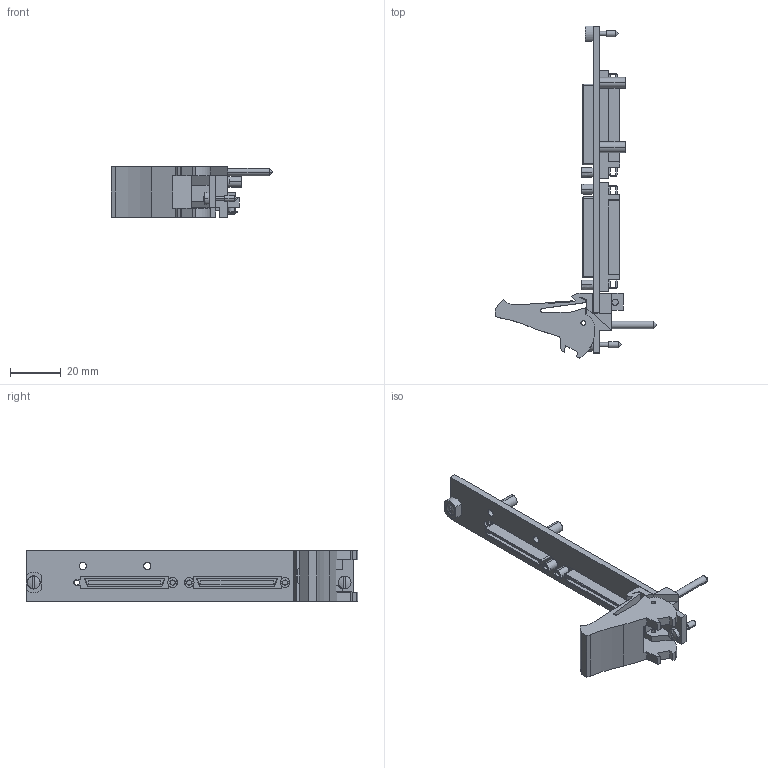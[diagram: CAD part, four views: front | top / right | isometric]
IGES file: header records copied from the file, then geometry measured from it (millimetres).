
Start section:  PTC IGES file: cu-pxi-module-68pos-vhdci.igs
Global section: file name: cu-pxi-module-68pos-vhdci.igs; native system: Pro/ENGINEER by Parametric Technology Corporation; preprocessor: 2006080; author: mschrade; organization: Unknown; date: 090923.100317; units: inch
Bounding box: 63.53 x 130.62 x 20.02 mm (x, y, z)
Surface area: 16052.4 mm2 (no closed solid volume)
Topology: 0 solids, 0 shells, 496 faces, 2668 edges, 2664 vertices
Faces by surface type: bspline 315, revolution 181
